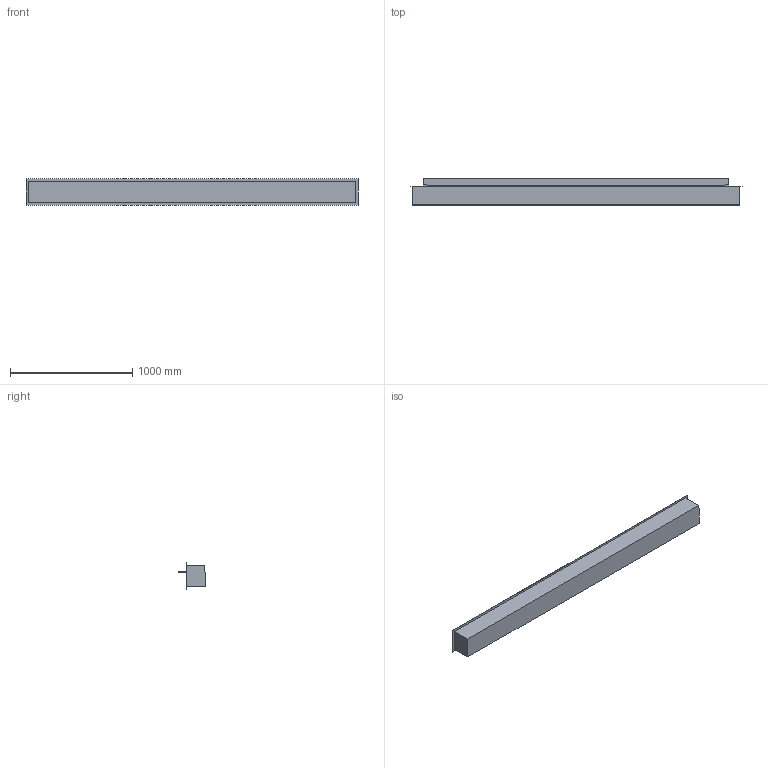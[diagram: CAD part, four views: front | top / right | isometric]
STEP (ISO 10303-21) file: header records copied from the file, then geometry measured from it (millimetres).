
FILE_DESCRIPTION (( 'STEP AP203' ), '1' );
FILE_NAME ('Denver F6 2720.STEP', '2024-03-13T09:23:44', ( '' ), ( '' ), 'SwSTEP 2.0', 'SolidWorks 2023', '' );
FILE_SCHEMA (( 'CONFIG_CONTROL_DESIGN' ));
Length unit declared in the file: millimetre
Products named in the file (1): Denver F6 2720
Bounding box: 2720 x 220 x 215 mm (x, y, z)
Volume: 76479719 mm3; surface area: 3433142.4 mm2
Topology: 8 solids, 8 shells, 68 faces, 156 edges, 104 vertices
Faces by surface type: plane 68
Entity records: 1955 total; most frequent: CARTESIAN_POINT 329, ORIENTED_EDGE 312, DIRECTION 294, LINE 156, EDGE_CURVE 156, VECTOR 156, VERTEX_POINT 104, EDGE_LOOP 74
